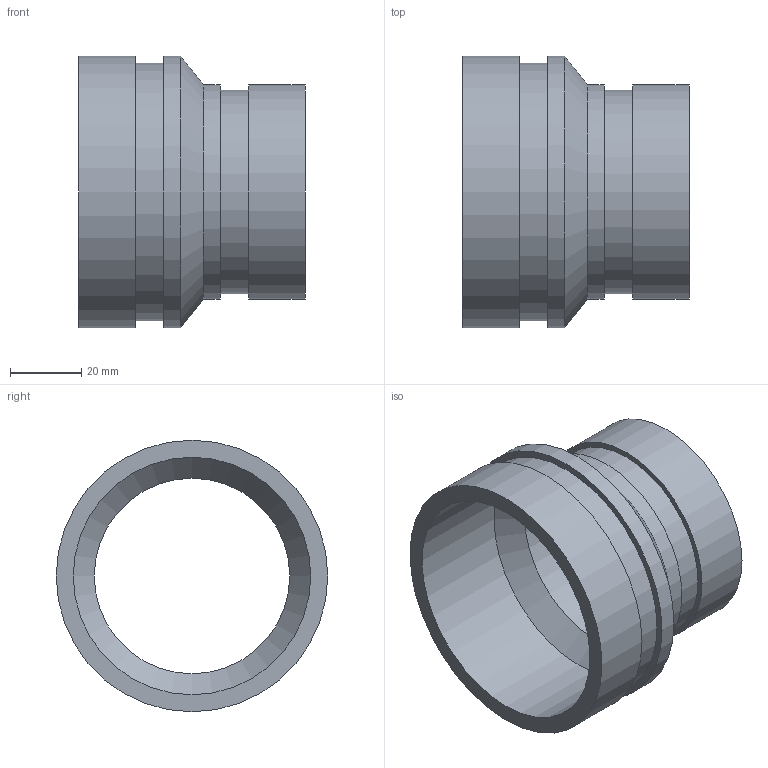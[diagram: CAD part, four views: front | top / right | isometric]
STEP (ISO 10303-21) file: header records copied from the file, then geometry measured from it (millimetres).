
FILE_DESCRIPTION(/* description */ ('VIC REDUCER CONCENTRIC No 450-SS','CAx-IF Rec.Pracs.---Representation and Presentation of Product Manufacturing Information (PMI)---4.0---2014-10-13'),/* implementation_level */ '2;1');
FILE_NAME(/* name */ 'C:\Users\kkamble\AppData\Roaming\Autodesk\ApplicationPlugins\Back Up\Victaulic_SS-OGS_Reducer Concentric_Sched 10S_No 450 SS (OGS)\Victaulic_SS-OGS_Reducer Concentric_Sched 10S_No 450 SS (OGS)_02.5(76.1)x02.0 (65x50).stp',/* time_stamp */ '2020-09-08T12:32:27+05:00',/* author */ ('CORINNE GRAY'),/* organization */ ('Victaulic'),/* preprocessor_version */ 'ST-DEVELOPER v17.2',/* originating_system */ 'Autodesk Inventor 2019',/* authorisation */ '');
FILE_SCHEMA (('AP242_MANAGED_MODEL_BASED_3D_ENGINEERING_MIM_LF { 1 0 10303 442 1 1 4 }'));
Length unit declared in the file: inch
Products named in the file (1): 450 SS-02.5 (76.1)x02.0
Bounding box: 63.5 x 76.2 x 76.2 mm (x, y, z)
Volume: 43633.5 mm3; surface area: 29889.8 mm2
Topology: 1 solids, 1 shells, 16 faces, 42 edges, 32 vertices
Faces by surface type: cylinder 8, plane 6, cone 2
Full cylindrical faces by diameter (mm): 54.864 x1, 57.15 x1, 60.325 x2, 66.65 x1, 72.263 x1, 76.2 x2
Entity records: 686 total; most frequent: DIRECTION 134, CARTESIAN_POINT 108, ORIENTED_EDGE 84, AXIS2_PLACEMENT_3D 62, EDGE_CURVE 42, CIRCLE 32, VERTEX_POINT 32, EDGE_LOOP 22
